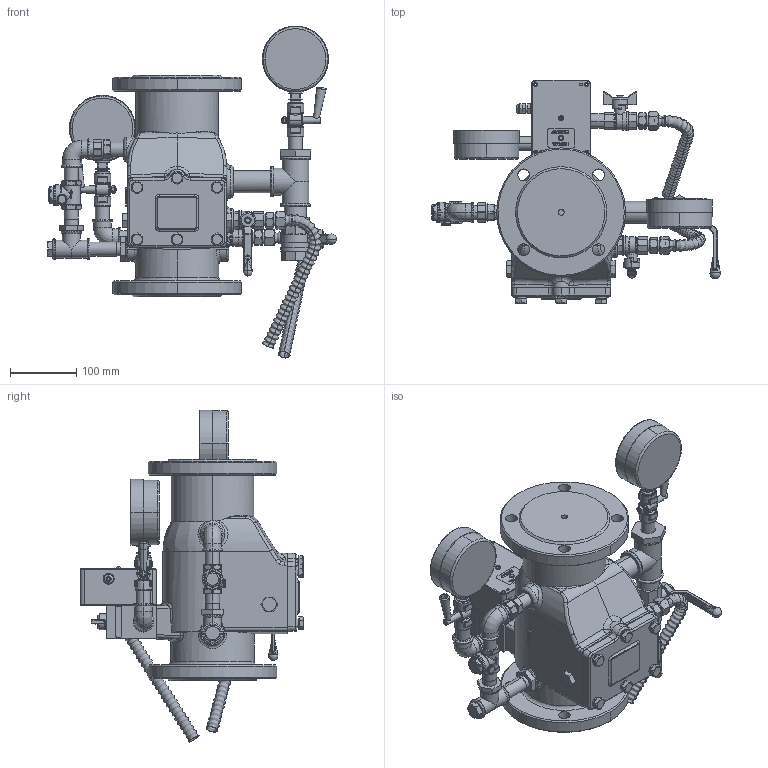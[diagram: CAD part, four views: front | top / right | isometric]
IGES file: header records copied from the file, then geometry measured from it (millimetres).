
Start section: File generated by T-FLEX CAD Version (null)
Global section: file name:                DN 80     _3D.igs; native system: T-FLEX CAD; date: 211013.151622; units: millimetre
Bounding box: 437 x 337.9 x 502.35 mm (x, y, z)
Volume: 2017047.9 mm3; surface area: 801959.2 mm2
Topology: 25 solids, 42 shells, 3283 faces, 8023 edges, 4721 vertices
Faces by surface type: plane 1044, cylinder 1034, bspline 523, cone 329, revolution 269, sphere 84
Full cylindrical faces by diameter (mm): 15 x1
